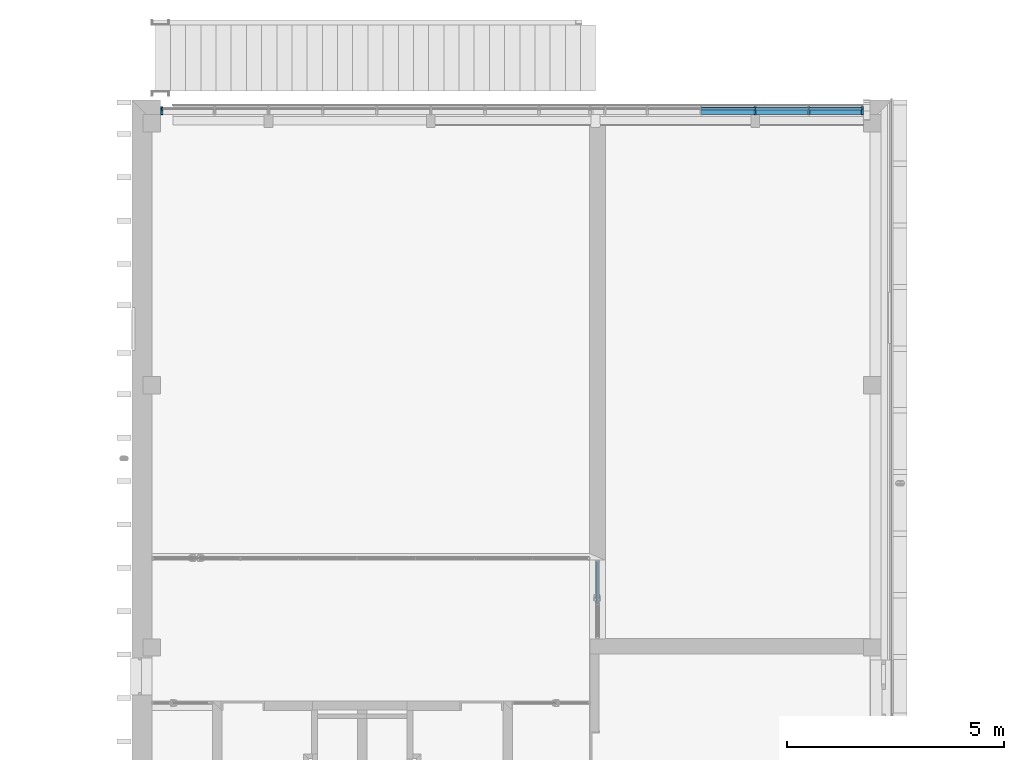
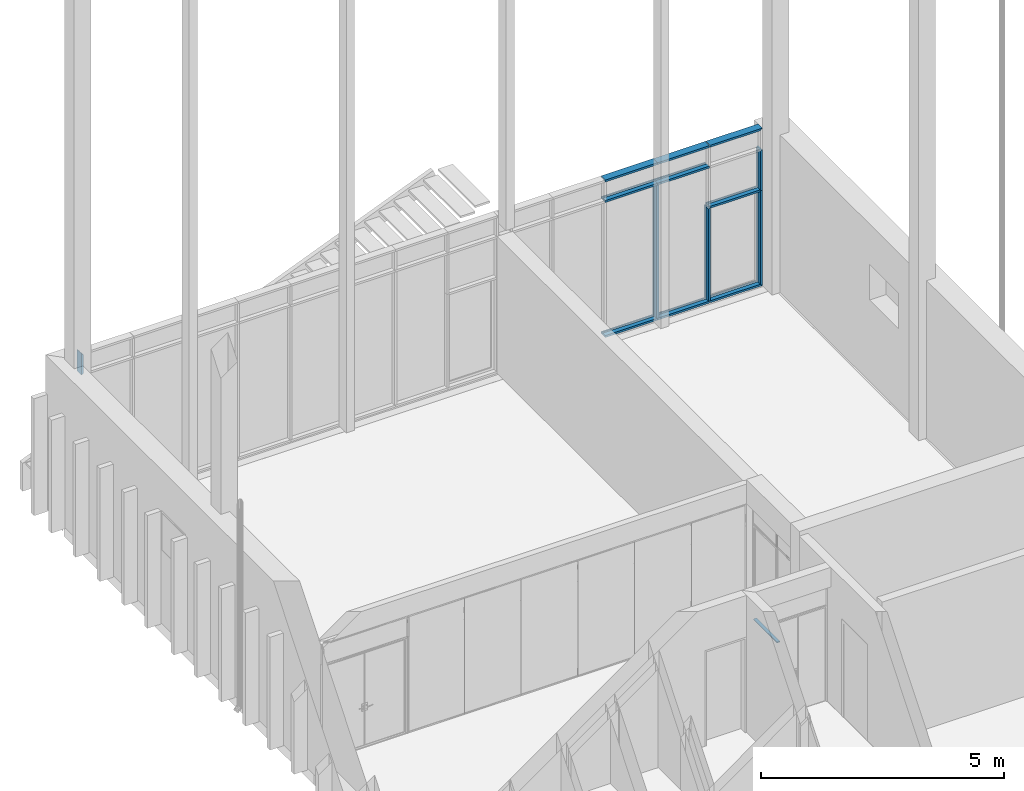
# One storey, part 7 of 89: 15 members, 2 elements without a shape of their own.
"""IFC2X3 building model written with IfcOpenShell, lengths in millimetres."""

from ifc_helpers import new_model, entity, si_unit, converted_unit, derived_unit, money_unit, direction, frame, origin_with_axes, place, context, subcontext, project, spatial, polyline, outline, extrude, clip, halfspace, material, type_object, element, aggregate, save


model = new_model("IFC2X3")

# Units and contexts
model_context = context("Model", 3, precision=0.01, world=origin_with_axes(), true_north=direction((0.0, 1.0)))
body_context = subcontext(model_context, "Body", "Model", "MODEL_VIEW")
ifc_project = project(units=[si_unit("LENGTHUNIT", "METRE", prefix="MILLI"), si_unit("AREAUNIT", "SQUARE_METRE"), si_unit("VOLUMEUNIT", "CUBIC_METRE"), converted_unit("PLANEANGLEUNIT", "DEGREE", entity("IfcPlaneAngleMeasure", 0.0174532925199), si_unit("PLANEANGLEUNIT", "RADIAN"), dimensions=[0, 0, 0, 0, 0, 0, 0]), si_unit("SOLIDANGLEUNIT", "STERADIAN"), money_unit("EUR"), converted_unit("TIMEUNIT", "Year", entity("IfcTimeMeasure", 31556926.0), si_unit("TIMEUNIT", "SECOND"), dimensions=[0, 0, 1, 0, 0, 0, 0]), si_unit("MASSUNIT", "GRAM", prefix="KILO"), si_unit("THERMODYNAMICTEMPERATUREUNIT", "DEGREE_CELSIUS"), si_unit("LUMINOUSINTENSITYUNIT", "LUMEN"), si_unit("ENERGYUNIT", "JOULE", prefix="MEGA"), derived_unit("THERMALCONDUCTANCEUNIT", [(si_unit("POWERUNIT", "WATT"), 1), (si_unit("LENGTHUNIT", "METRE"), -1), (si_unit("THERMODYNAMICTEMPERATUREUNIT", "KELVIN"), -1)]), derived_unit("SPECIFICHEATCAPACITYUNIT", [(si_unit("ENERGYUNIT", "JOULE"), 1), (si_unit("MASSUNIT", "GRAM", prefix="KILO"), -1), (si_unit("THERMODYNAMICTEMPERATUREUNIT", "KELVIN"), -1)]), derived_unit("MASSDENSITYUNIT", [(si_unit("MASSUNIT", "GRAM", prefix="KILO"), 1), (si_unit("VOLUMEUNIT", "CUBIC_METRE"), -1)])], contexts=[model_context])

# Site, building, storey
site_placement = place(None, origin_with_axes())
site = spatial("IfcSite", under=ifc_project, at=site_placement, Name="Puškini 31, Narva", CompositionType="ELEMENT")
building_placement = place(site_placement, origin_with_axes())
building = spatial("IfcBuilding", under=site, at=building_placement, Name="Narva Riigigümnaasium", CompositionType="ELEMENT")
storey_placement = place(building_placement, frame((0.0, 0.0, -3300.0), z_axis=(0.0, 0.0, 1.0), x_axis=(1.0, 0.0, 0.0)))
storey = spatial("IfcBuildingStorey", under=building, at=storey_placement, Name="1.korrus -3.3", CompositionType="ELEMENT", Elevation=-3300.0)

# Curtain wall, members
curtain_wall_type = type_object("IfcCurtainWallType", Name="Curtain Wall Type", PredefinedType="NOTDEFINED")
curtain_wall_1_placement = place(storey_placement, frame((47634.9999923, 254360.0, -1.86566340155e-05), z_axis=(0.0, 0.0, 1.0), x_axis=(1.0, 0.0, 0.0)))
curtain_wall_1 = element("IfcCurtainWall", 1, at=curtain_wall_1_placement, inside=storey, type_object=curtain_wall_type, Name="G-KLF-06")
ifc_material = material(Name="ET-04_Alumiinium")
member_type_1 = type_object("IfcMemberType", Name="Mullion Frame 50 x 176", PredefinedType="MULLION")
member_1_placement = place(curtain_wall_1_placement, frame((4907.50002659, 0.0, 0.0), z_axis=(0.0, 0.0, 1.0), x_axis=(-1.0, 0.0, 0.0)))
member_1 = element("IfcMember", 2, at=member_1_placement, type_object=member_type_1, material=ifc_material, Name="klaasfassaadi raam", ObjectType="MULLION", context=body_context, shape_type="SweptSolid", body=[
    extrude(outline(polyline([(10.0, -29.0), (10.0, 29.0), (25.0, 29.0), (25.0, 46.0), (-25.0, 46.0), (-25.0, 29.0), (-10.0, 29.0), (-10.0, -29.0), (-25.0, -29.0), (-25.0, -130.0), (25.0, -130.0), (25.0, -29.0), (10.0, -29.0)])), frame((0.0, 0.0, 50.0), z_axis=(0.0, 0.0, 1.0), x_axis=(-1.0, 0.0, 0.0)), (0.0, 0.0, 1.0), 2325.00002738),
])
member_2_placement = place(curtain_wall_1_placement, frame((3674.99999286, 0.0, 0.0), z_axis=(0.0, 0.0, 1.0), x_axis=(-1.0, 0.0, 0.0)))
member_2 = element("IfcMember", 3, at=member_2_placement, type_object=member_type_1, material=ifc_material, Name="klaasfassaadi raam", ObjectType="MULLION", context=body_context, shape_type="SweptSolid", body=[
    extrude(outline(polyline([(10.0, -29.0), (10.0, 29.0), (25.0, 29.0), (25.0, 46.0), (-25.0, 46.0), (-25.0, 29.0), (-10.0, 29.0), (-10.0, -29.0), (-25.0, -29.0), (-25.0, -130.0), (25.0, -130.0), (25.0, -29.0), (10.0, -29.0)])), frame((0.0, 0.0, 50.0), z_axis=(0.0, 0.0, 1.0), x_axis=(-1.0, 0.0, 0.0)), (0.0, 0.0, 1.0), 3345.00003901),
])
member_type_2 = type_object("IfcMemberType", Name="Boundary Frame 50 x 176", PredefinedType="MULLION")
member_3_placement = place(curtain_wall_1_placement, frame((-10032.9999923, 0.0, 3420.00003901), z_axis=(0.0, 0.0, 1.0), x_axis=(-1.0, 0.0, 0.0)))
member_3 = element("IfcMember", 4, at=member_3_placement, type_object=member_type_2, material=ifc_material, Name="klaasfassaadi raam", ObjectType="MULLION", context=body_context, shape_type="Clipping", body=[
    clip(clip(extrude(outline(polyline([(35.0, -29.0), (35.0, 29.0), (50.0, 29.0), (50.0, 46.0), (0.0, 46.0), (0.0, -130.0), (50.0, -130.0), (50.0, -29.0), (35.0, -29.0)])), frame((0.0, 0.0, 0.0), z_axis=(0.0, 0.0, 1.0), x_axis=(-1.0, 0.0, 0.0)), (0.0, 0.0, 1.0), 539.999979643), halfspace(frame((-269.999989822, 0.0, 269.999989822), z_axis=(0.707106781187, 0.0, -0.707106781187), x_axis=(0.0, 1.0, 0.0)), True)), halfspace(frame((0.0, 0.0, 0.0), z_axis=(0.4472135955, 0.0, 0.894427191), x_axis=(0.0, -1.0, 0.0)), True)),
])
member_4_placement = place(curtain_wall_1_placement, frame((2427.00000906, 0.0, 0.0), z_axis=(1.0, 0.0, 0.0), x_axis=(0.0, 0.0, 1.0)))
member_4 = element("IfcMember", 5, at=member_4_placement, type_object=member_type_2, material=ifc_material, Name="klaasfassaadi raam", ObjectType="MULLION", context=body_context, shape_type="SweptSolid", body=[
    extrude(outline(polyline([(29.0, -35.0), (29.0, -50.0), (130.0, -50.0), (130.0, 0.0), (-46.0, 0.0), (-46.0, -50.0), (-29.0, -50.0), (-29.0, -35.0), (29.0, -35.0)])), frame((0.0, 0.0, 0.0), z_axis=(0.0, 0.0, 1.0), x_axis=(0.0, 1.0, 0.0)), (0.0, 0.0, 1.0), 1246.00000014),
])
member_5_placement = place(curtain_wall_1_placement, frame((2427.00000906, 0.0, 3960.00001866), z_axis=(1.0, 0.0, 0.0), x_axis=(0.0, 0.0, 1.0)))
member_5 = element("IfcMember", 6, at=member_5_placement, type_object=member_type_2, material=ifc_material, Name="klaasfassaadi raam", ObjectType="MULLION", context=body_context, shape_type="SweptSolid", body=[
    extrude(outline(polyline([(29.0, 35.0), (-29.0, 35.0), (-29.0, 50.0), (-46.0, 50.0), (-46.0, 0.0), (130.0, 0.0), (130.0, 50.0), (29.0, 50.0), (29.0, 35.0)])), frame((0.0, 0.0, 0.0), z_axis=(0.0, 0.0, 1.0), x_axis=(0.0, 1.0, 0.0)), (0.0, 0.0, 1.0), 1246.00000014),
])
member_6_placement = place(curtain_wall_1_placement, frame((4919.00000934, 0.0, 0.0), z_axis=(1.0, 0.0, 0.0), x_axis=(0.0, 0.0, 1.0)))
member_6 = element("IfcMember", 7, at=member_6_placement, type_object=member_type_2, material=ifc_material, Name="klaasfassaadi raam", ObjectType="MULLION", context=body_context, shape_type="Clipping", body=[
    clip(extrude(outline(polyline([(29.0, -35.0), (29.0, -50.0), (130.0, -50.0), (130.0, 0.0), (-46.0, 0.0), (-46.0, -50.0), (-29.0, -50.0), (-29.0, -35.0), (29.0, -35.0)])), frame((0.0, 0.0, 0.0), z_axis=(0.0, 0.0, 1.0), x_axis=(0.0, 1.0, 0.0)), (0.0, 0.0, 1.0), 1246.00000014), halfspace(frame((623.000000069, 0.0, 623.000000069), z_axis=(-0.707106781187, 0.0, -0.707106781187), x_axis=(0.0, 1.0, 0.0)), True)),
])
member_7_placement = place(curtain_wall_1_placement, frame((4919.00000934, 0.0, 3960.00001866), z_axis=(1.0, 0.0, 0.0), x_axis=(0.0, 0.0, 1.0)))
member_7 = element("IfcMember", 8, at=member_7_placement, type_object=member_type_2, material=ifc_material, Name="klaasfassaadi raam", ObjectType="MULLION", context=body_context, shape_type="Clipping", body=[
    clip(extrude(outline(polyline([(29.0, 35.0), (-29.0, 35.0), (-29.0, 50.0), (-46.0, 50.0), (-46.0, 0.0), (130.0, 0.0), (130.0, 50.0), (29.0, 50.0), (29.0, 35.0)])), frame((0.0, 0.0, 0.0), z_axis=(0.0, 0.0, 1.0), x_axis=(0.0, 1.0, 0.0)), (0.0, 0.0, 1.0), 1246.00000014), halfspace(frame((-623.000000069, 0.0, 623.000000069), z_axis=(0.707106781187, 0.0, -0.707106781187), x_axis=(0.0, 1.0, 0.0)), True)),
])
member_8_placement = place(curtain_wall_1_placement, frame((6165.00000947, 0.0, 0.0), z_axis=(0.0, 0.0, 1.0), x_axis=(-1.0, 0.0, 0.0)))
member_8 = element("IfcMember", 9, at=member_8_placement, type_object=member_type_2, material=ifc_material, Name="klaasfassaadi raam", ObjectType="MULLION", context=body_context, shape_type="Clipping", body=[
    clip(extrude(outline(polyline([(-35.0, -29.0), (-50.0, -29.0), (-50.0, -130.0), (0.0, -130.0), (0.0, 46.0), (-50.0, 46.0), (-50.0, 29.0), (-35.0, 29.0), (-35.0, -29.0)])), frame((0.0, 0.0, 0.0), z_axis=(0.0, 0.0, 1.0), x_axis=(-1.0, 0.0, 0.0)), (0.0, 0.0, 1.0), 2400.00002738), halfspace(frame((0.0, 0.0, 0.0), z_axis=(-0.707106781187, 0.0, 0.707106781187), x_axis=(0.0, -1.0, 0.0)), True)),
])
member_9_placement = place(curtain_wall_1_placement, frame((2427.00000906, 0.0, 3420.00003901), z_axis=(1.0, 0.0, 0.0), x_axis=(0.0, 0.0, 1.0)))
member_9 = element("IfcMember", 10, at=member_9_placement, type_object=member_type_2, material=ifc_material, Name="klaasfassaadi raam", ObjectType="MULLION", context=body_context, shape_type="SweptSolid", body=[
    extrude(outline(polyline([(29.0, 10.0), (-29.0, 10.0), (-29.0, 25.0), (-46.0, 25.0), (-46.0, -25.0), (-29.0, -25.0), (-29.0, -10.0), (29.0, -10.0), (29.0, -25.0), (130.0, -25.0), (130.0, 25.0), (29.0, 25.0), (29.0, 10.0)])), frame((0.0, 0.0, 0.0), z_axis=(0.0, 0.0, 1.0), x_axis=(0.0, 1.0, 0.0)), (0.0, 0.0, 1.0), 1246.00000014),
])
member_10_placement = place(curtain_wall_1_placement, frame((6165.00000947, 0.0, 2400.00002738), z_axis=(0.0, 0.0, 1.0), x_axis=(-1.0, 0.0, 0.0)))
member_10 = element("IfcMember", 11, at=member_10_placement, type_object=member_type_2, material=ifc_material, Name="klaasfassaadi raam", ObjectType="MULLION", context=body_context, shape_type="Clipping", body=[
    clip(extrude(outline(polyline([(-35.0, -29.0), (-50.0, -29.0), (-50.0, -130.0), (0.0, -130.0), (0.0, 46.0), (-50.0, 46.0), (-50.0, 29.0), (-35.0, 29.0), (-35.0, -29.0)])), frame((0.0, 0.0, 0.0), z_axis=(0.0, 0.0, 1.0), x_axis=(-1.0, 0.0, 0.0)), (0.0, 0.0, 1.0), 1020.00001164), halfspace(frame((408.000004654, 0.0, 816.000009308), z_axis=(-0.4472135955, 0.0, -0.894427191), x_axis=(0.0, 1.0, 0.0)), True)),
])
member_11_placement = place(curtain_wall_1_placement, frame((3674.99999286, 0.0, 3420.00003901), z_axis=(1.0, 0.0, 0.0), x_axis=(0.0, 0.0, 1.0)))
member_11 = element("IfcMember", 12, at=member_11_placement, type_object=member_type_2, material=ifc_material, Name="klaasfassaadi raam", ObjectType="MULLION", context=body_context, shape_type="SweptSolid", body=[
    extrude(outline(polyline([(29.0, 10.0), (-29.0, 10.0), (-29.0, 25.0), (-46.0, 25.0), (-46.0, -25.0), (-29.0, -25.0), (-29.0, -10.0), (29.0, -10.0), (29.0, -25.0), (130.0, -25.0), (130.0, 25.0), (29.0, 25.0), (29.0, 10.0)])), frame((0.0, 0.0, 0.0), z_axis=(0.0, 0.0, 1.0), x_axis=(0.0, 1.0, 0.0)), (0.0, 0.0, 1.0), 1232.50003373),
])
member_12_placement = place(curtain_wall_1_placement, frame((3673.0000092, 0.0, 3960.00001866), z_axis=(1.0, 0.0, 0.0), x_axis=(0.0, 0.0, 1.0)))
member_12 = element("IfcMember", 13, at=member_12_placement, type_object=member_type_2, material=ifc_material, Name="klaasfassaadi raam", ObjectType="MULLION", context=body_context, shape_type="SweptSolid", body=[
    extrude(outline(polyline([(29.0, 35.0), (-29.0, 35.0), (-29.0, 50.0), (-46.0, 50.0), (-46.0, 0.0), (130.0, 0.0), (130.0, 50.0), (29.0, 50.0), (29.0, 35.0)])), frame((0.0, 0.0, 0.0), z_axis=(0.0, 0.0, 1.0), x_axis=(0.0, 1.0, 0.0)), (0.0, 0.0, 1.0), 1234.50001739),
])
member_13_placement = place(curtain_wall_1_placement, frame((3674.99999286, 0.0, 0.0), z_axis=(1.0, 0.0, 0.0), x_axis=(0.0, 0.0, 1.0)))
member_13 = element("IfcMember", 14, at=member_13_placement, type_object=member_type_2, material=ifc_material, Name="klaasfassaadi raam", ObjectType="MULLION", context=body_context, shape_type="SweptSolid", body=[
    extrude(outline(polyline([(29.0, -35.0), (29.0, -50.0), (130.0, -50.0), (130.0, 0.0), (-46.0, 0.0), (-46.0, -50.0), (-29.0, -50.0), (-29.0, -35.0), (29.0, -35.0)])), frame((0.0, 0.0, 0.0), z_axis=(0.0, 0.0, 1.0), x_axis=(0.0, 1.0, 0.0)), (0.0, 0.0, 1.0), 1232.50003373),
])
member_14_placement = place(curtain_wall_1_placement, frame((4919.00000934, 0.0, 2400.00002738), z_axis=(1.0, 0.0, 0.0), x_axis=(0.0, 0.0, 1.0)))
member_14 = element("IfcMember", 15, at=member_14_placement, type_object=member_type_2, material=ifc_material, Name="klaasfassaadi raam", ObjectType="MULLION", context=body_context, shape_type="SweptSolid", body=[
    extrude(outline(polyline([(29.0, 10.0), (-29.0, 10.0), (-29.0, 25.0), (-46.0, 25.0), (-46.0, -25.0), (-29.0, -25.0), (-29.0, -10.0), (29.0, -10.0), (29.0, -25.0), (130.0, -25.0), (130.0, 25.0), (29.0, 25.0), (29.0, 10.0)])), frame((0.0, 0.0, 0.0), z_axis=(0.0, 0.0, 1.0), x_axis=(0.0, 1.0, 0.0)), (0.0, 0.0, 1.0), 1212.22103507),
])
aggregate(curtain_wall_1, [member_3, member_4, member_5, member_6, member_7, member_8, member_9, member_10, member_11, member_12, member_13, member_1, member_2, member_14])

# Curtain wall, member
curtain_wall_2_placement = place(storey_placement, frame((47675.0000001, 242632.20006, -3.78005973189e-05), z_axis=(0.0, 0.0, 1.0), x_axis=(1.0, 0.0, 0.0)))
curtain_wall_2 = element("IfcCurtainWall", 16, at=curtain_wall_2_placement, inside=storey, type_object=curtain_wall_type, Name="G-SKLF-10")
member_type_3 = type_object("IfcMemberType", Name="20 x 74", PredefinedType="MULLION")
member_15_placement = place(curtain_wall_2_placement, frame((0.0, 1297.79999696, 0.0), z_axis=(0.0, -1.0, 0.0), x_axis=(0.0, 0.0, 1.0)))
member_15 = element("IfcMember", 17, at=member_15_placement, type_object=member_type_3, material=ifc_material, Name="G-SKLF-10-raam", ObjectType="MULLION", context=body_context, shape_type="SweptSolid", body=[
    extrude(outline(polyline([(-37.0, -20.0), (37.0, -20.0), (37.0, 0.0), (-37.0, 0.0), (-37.0, -20.0)])), frame((0.0, 0.0, 0.0), z_axis=(0.0, 0.0, 1.0), x_axis=(0.0, 1.0, 0.0)), (0.0, 0.0, 1.0), 969.999986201),
])
aggregate(curtain_wall_2, [member_15])

save(model, "model.ifc")
